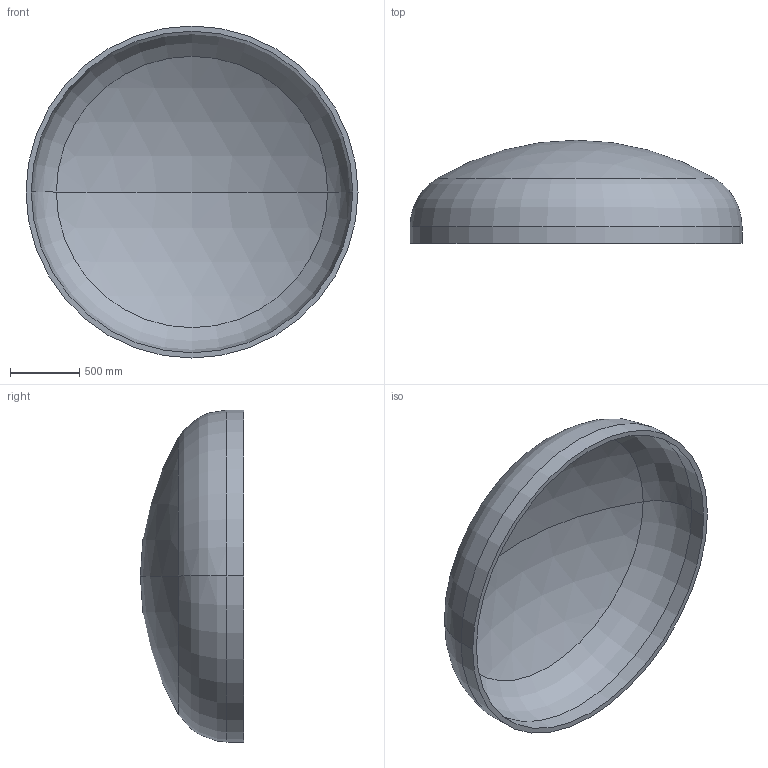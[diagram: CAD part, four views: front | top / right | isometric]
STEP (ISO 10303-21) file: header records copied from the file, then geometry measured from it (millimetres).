
FILE_DESCRIPTION (( 'STEP AP203' ), '1' );
FILE_NAME ('DIN 28013 Korbbogenform_-_Boden DIN 28013 - 2400 x 120 - I - s=38.step', '2016-07-01T15:19:52', ( '' ), ( '' ), 'SwSTEP 2.0', 'SolidWorks 2013', '' );
FILE_SCHEMA (( 'CONFIG_CONTROL_DESIGN' ));
Length unit declared in the file: millimetre
Products named in the file (1): DIN 28013 Korbbogenform_-_Boden DIN 28013 - 2400 x 120 - I - s=38
Bounding box: 2400 x 745.62 x 2400 mm (x, y, z)
Volume: 267052640.8 mm3; surface area: 14340398.5 mm2
Topology: 1 solids, 1 shells, 13 faces, 24 edges, 14 vertices
Faces by surface type: torus 4, cylinder 4, sphere 4, plane 1
Entity records: 407 total; most frequent: DIRECTION 72, CARTESIAN_POINT 52, ORIENTED_EDGE 48, AXIS2_PLACEMENT_3D 34, EDGE_CURVE 24, CIRCLE 20, EDGE_LOOP 14, VERTEX_POINT 14
